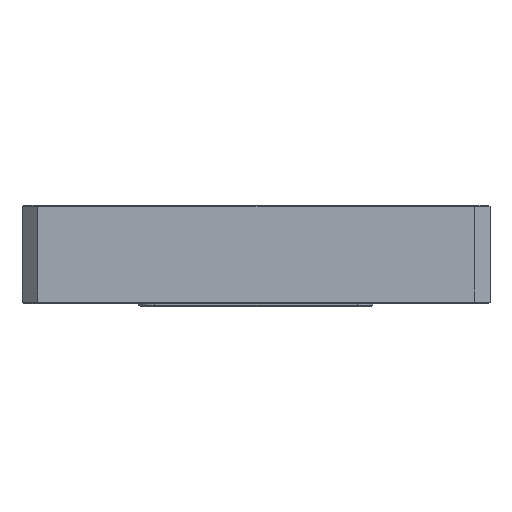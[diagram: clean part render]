
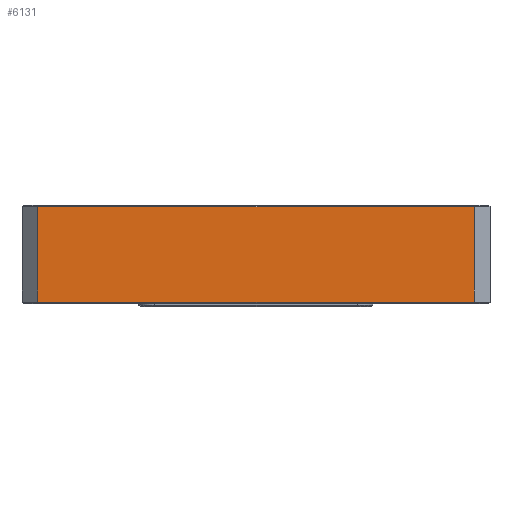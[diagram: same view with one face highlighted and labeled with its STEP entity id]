
A CAD part, left-side view. The second image highlights one B-rep face of the part: STEP entity #6131.
In plain terms, the highlighted planar face has unit normal (-1, 0, 0).
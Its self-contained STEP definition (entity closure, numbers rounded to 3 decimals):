
#218 = PLANE ( 'NONE',  #3271 ) ;
#466 = ORIENTED_EDGE ( 'NONE', *, *, #9828, .T. ) ;
#565 = DIRECTION ( 'NONE',  ( 0., 0., 1. ) ) ;
#1193 = LINE ( 'NONE', #3256, #6489 ) ;
#2036 = CARTESIAN_POINT ( 'NONE',  ( -30., -147.595, -3.1 ) ) ;
#3256 = CARTESIAN_POINT ( 'NONE',  ( -30., -91.595, 9.1 ) ) ;
#3271 = AXIS2_PLACEMENT_3D ( 'NONE', #13926, #3809, #565 ) ;
#3809 = DIRECTION ( 'NONE',  ( -1., 0., 0. ) ) ;
#4103 = LINE ( 'NONE', #6464, #14529 ) ;
#4232 = ORIENTED_EDGE ( 'NONE', *, *, #6432, .T. ) ;
#4427 = LINE ( 'NONE', #5999, #13088 ) ;
#5385 = DIRECTION ( 'NONE',  ( 0., 0., -1. ) ) ;
#5702 = EDGE_LOOP ( 'NONE', ( #4232, #10349, #7964, #466 ) ) ;
#5999 = CARTESIAN_POINT ( 'NONE',  ( -30., -147.595, 6. ) ) ;
#6131 = ADVANCED_FACE ( 'NONE', ( #7491 ), #218, .T. ) ;
#6227 = CARTESIAN_POINT ( 'NONE',  ( -30., -91.595, 9.1 ) ) ;
#6334 = VERTEX_POINT ( 'NONE', #10894 ) ;
#6432 = EDGE_CURVE ( 'NONE', #10117, #10032, #4103, .T. ) ;
#6464 = CARTESIAN_POINT ( 'NONE',  ( -30., -91.595, 6. ) ) ;
#6489 = VECTOR ( 'NONE', #8800, 1000. ) ;
#6970 = DIRECTION ( 'NONE',  ( 0., 0., 1. ) ) ;
#7427 = CARTESIAN_POINT ( 'NONE',  ( -30., -147.595, -3.1 ) ) ;
#7491 = FACE_OUTER_BOUND ( 'NONE', #5702, .T. ) ;
#7964 = ORIENTED_EDGE ( 'NONE', *, *, #14360, .T. ) ;
#8163 = CARTESIAN_POINT ( 'NONE',  ( -30., -91.595, -3.1 ) ) ;
#8800 = DIRECTION ( 'NONE',  ( 0., 1., 0. ) ) ;
#9270 = LINE ( 'NONE', #7427, #11919 ) ;
#9827 = VERTEX_POINT ( 'NONE', #2036 ) ;
#9828 = EDGE_CURVE ( 'NONE', #6334, #10117, #1193, .T. ) ;
#10032 = VERTEX_POINT ( 'NONE', #8163 ) ;
#10117 = VERTEX_POINT ( 'NONE', #6227 ) ;
#10349 = ORIENTED_EDGE ( 'NONE', *, *, #11879, .T. ) ;
#10894 = CARTESIAN_POINT ( 'NONE',  ( -30., -147.595, 9.1 ) ) ;
#11879 = EDGE_CURVE ( 'NONE', #10032, #9827, #9270, .T. ) ;
#11919 = VECTOR ( 'NONE', #13090, 1000. ) ;
#13088 = VECTOR ( 'NONE', #6970, 1000. ) ;
#13090 = DIRECTION ( 'NONE',  ( 0., -1., 0. ) ) ;
#13926 = CARTESIAN_POINT ( 'NONE',  ( -30., -100.095, 3. ) ) ;
#14360 = EDGE_CURVE ( 'NONE', #9827, #6334, #4427, .T. ) ;
#14529 = VECTOR ( 'NONE', #5385, 1000. ) ;
